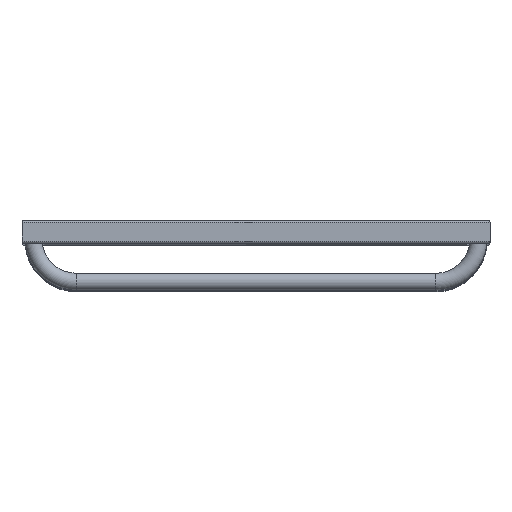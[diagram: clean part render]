
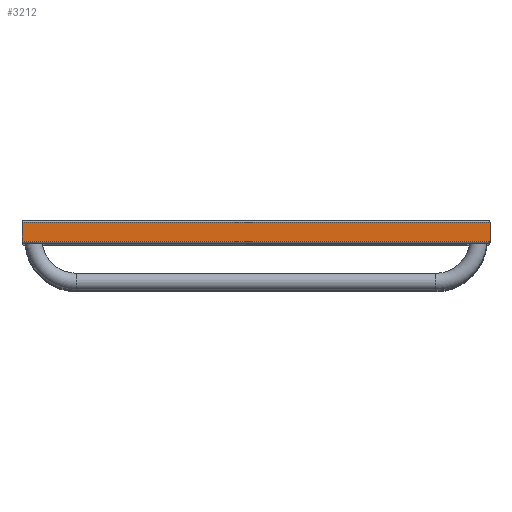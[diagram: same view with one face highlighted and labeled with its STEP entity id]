
A CAD part, top view. The second image highlights one B-rep face of the part: STEP entity #3212.
In plain terms, the highlighted planar face has unit normal (0, 0, 1).
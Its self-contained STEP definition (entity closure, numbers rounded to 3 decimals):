
#243=CARTESIAN_POINT('',(300.0,12.,1215.0));
#244=VERTEX_POINT('',#243);
#251=CARTESIAN_POINT('',(300.0,-12.,1215.0));
#252=VERTEX_POINT('',#251);
#253=CARTESIAN_POINT('',(300.0,12.,1215.0));
#254=DIRECTION('',(0.0,-1.0,0.0));
#255=VECTOR('',#254,24.0);
#256=LINE('',#253,#255);
#257=EDGE_CURVE('',#244,#252,#256,.T.);
#3063=CARTESIAN_POINT('',(-300.0,12.,1215.0));
#3064=VERTEX_POINT('',#3063);
#3065=CARTESIAN_POINT('',(-300.0,12.,1215.0));
#3066=DIRECTION('',(1.0,0.0,0.0));
#3067=VECTOR('',#3066,600.0);
#3068=LINE('',#3065,#3067);
#3069=EDGE_CURVE('',#3064,#244,#3068,.T.);
#3107=CARTESIAN_POINT('',(-300.0,-12.,1215.0));
#3108=VERTEX_POINT('',#3107);
#3115=CARTESIAN_POINT('',(-300.0,-12.,1215.0));
#3116=DIRECTION('',(0.0,1.0,0.0));
#3117=VECTOR('',#3116,24.);
#3118=LINE('',#3115,#3117);
#3119=EDGE_CURVE('',#3108,#3064,#3118,.T.);
#3171=CARTESIAN_POINT('',(300.0,-12.,1215.0));
#3172=DIRECTION('',(-1.0,0.0,0.0));
#3173=VECTOR('',#3172,600.0);
#3174=LINE('',#3171,#3173);
#3175=EDGE_CURVE('',#252,#3108,#3174,.T.);
#3201=CARTESIAN_POINT('',(285.0,0.,1215.0));
#3202=DIRECTION('',(0.0,0.0,1.0));
#3203=DIRECTION('',(1.0,0.0,0.0));
#3204=AXIS2_PLACEMENT_3D('',#3201,#3202,#3203);
#3205=PLANE('',#3204);
#3206=ORIENTED_EDGE('',*,*,#3069,.F.);
#3207=ORIENTED_EDGE('',*,*,#3119,.F.);
#3208=ORIENTED_EDGE('',*,*,#3175,.F.);
#3209=ORIENTED_EDGE('',*,*,#257,.F.);
#3210=EDGE_LOOP('',(#3206,#3207,#3208,#3209));
#3211=FACE_OUTER_BOUND('',#3210,.T.);
#3212=ADVANCED_FACE('',(#3211),#3205,.T.);
